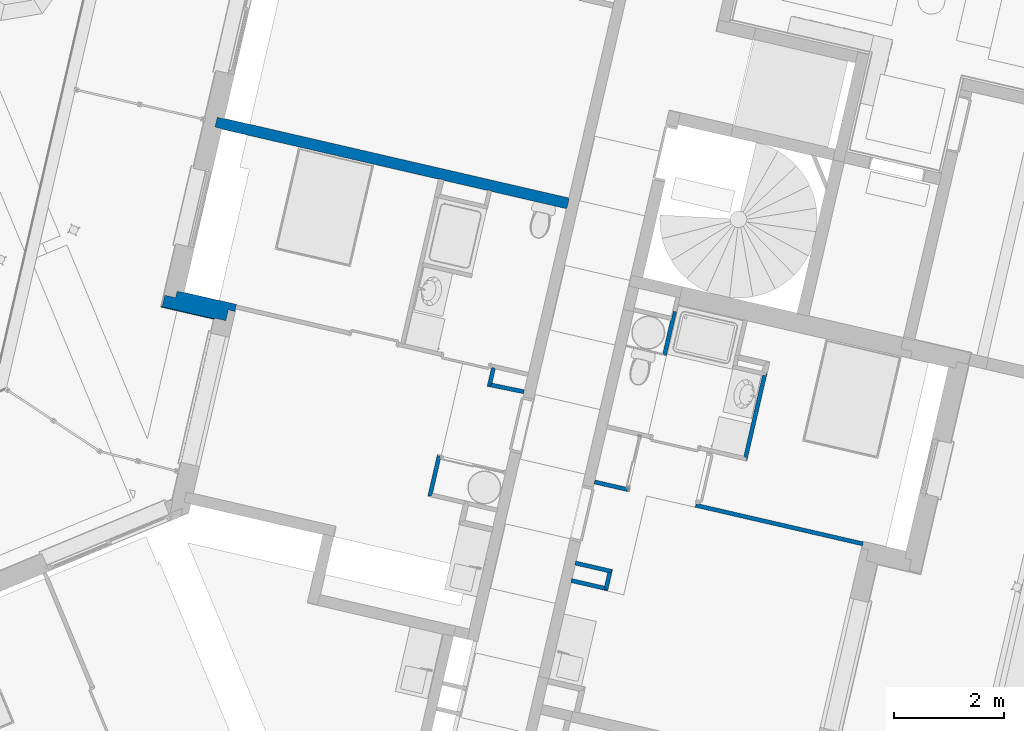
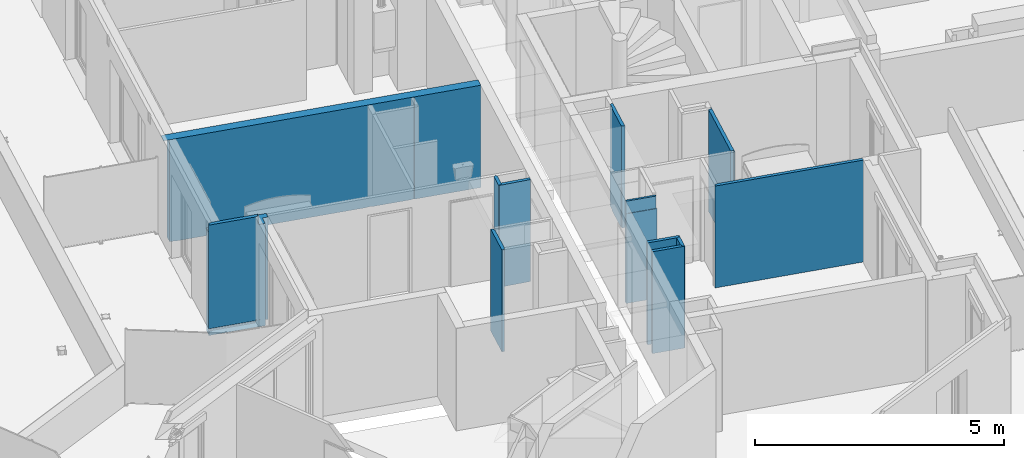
# One storey, part 44 of 119: 12 walls.
"""IFC2X3 building model written with IfcOpenShell, lengths in metres."""

from ifc_helpers import new_model, entity, si_unit, converted_unit, derived_unit, money_unit, direction, frame, origin_with_axes, place, context, subcontext, project, spatial, faceted_brep, material, material_list, type_object, element, save


model = new_model("IFC2X3")

# Units and contexts
model_context = context("Model", 3, precision=1e-05, world=origin_with_axes(), true_north=direction((0.0, 1.0)))
body_context = subcontext(model_context, "Body", "Model", "MODEL_VIEW")
ifc_project = project(units=[si_unit("LENGTHUNIT", "METRE"), si_unit("AREAUNIT", "SQUARE_METRE"), si_unit("VOLUMEUNIT", "CUBIC_METRE"), converted_unit("PLANEANGLEUNIT", "DEGREE", entity("IfcPlaneAngleMeasure", 0.0174532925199), si_unit("PLANEANGLEUNIT", "RADIAN"), dimensions=[0, 0, 0, 0, 0, 0, 0]), si_unit("SOLIDANGLEUNIT", "STERADIAN"), money_unit("EUR"), converted_unit("TIMEUNIT", "Year", entity("IfcTimeMeasure", 31556926.0), si_unit("TIMEUNIT", "SECOND"), dimensions=[0, 0, 1, 0, 0, 0, 0]), si_unit("MASSUNIT", "GRAM", prefix="KILO"), si_unit("THERMODYNAMICTEMPERATUREUNIT", "DEGREE_CELSIUS"), si_unit("LUMINOUSINTENSITYUNIT", "LUMEN"), si_unit("ENERGYUNIT", "JOULE", prefix="MEGA"), derived_unit("THERMALCONDUCTANCEUNIT", [(si_unit("POWERUNIT", "WATT"), 1), (si_unit("LENGTHUNIT", "METRE"), -1), (si_unit("THERMODYNAMICTEMPERATUREUNIT", "KELVIN"), -1)]), derived_unit("SPECIFICHEATCAPACITYUNIT", [(si_unit("ENERGYUNIT", "JOULE"), 1), (si_unit("MASSUNIT", "GRAM", prefix="KILO"), -1), (si_unit("THERMODYNAMICTEMPERATUREUNIT", "KELVIN"), -1)]), derived_unit("MASSDENSITYUNIT", [(si_unit("MASSUNIT", "GRAM", prefix="KILO"), 1), (si_unit("VOLUMEUNIT", "CUBIC_METRE"), -1)])], contexts=[model_context])

# Site, building, storey
site_placement = place(None, origin_with_axes())
site = spatial("IfcSite", under=ifc_project, at=site_placement, Name="Site", CompositionType="ELEMENT")
building_placement = place(site_placement, origin_with_axes())
building = spatial("IfcBuilding", under=site, at=building_placement, Name="Bâtiment", CompositionType="ELEMENT")
storey_placement = place(building_placement, origin_with_axes())
storey = spatial("IfcBuildingStorey", under=building, at=storey_placement, Name="Rez-de-chaussée", CompositionType="ELEMENT", Elevation=0.0)

# Walls
ifc_material_1 = material(Name="Finition int - Plaque de plâtre")
ifc_material_2 = material(Name="Isolation - Laine de roche")
ifc_material_list_1 = material_list([ifc_material_1, ifc_material_2, ifc_material_1])
wall_type_1 = type_object("IfcWallType", Name="3 - Cloison 72mm Placostil 74", PredefinedType="USERDEFINED")
wall_1_placement = place(storey_placement, frame((-10.6895078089, -9.53207011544, 0.0), z_axis=(0.0, 0.0, 1.0), x_axis=(-0.224876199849, -0.974387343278, 0.0)))
element("IfcWall", 1, at=wall_1_placement, inside=storey, type_object=wall_type_1, material=ifc_material_list_1, Name="Cloison Placostil 72/48", ObjectType="PARTITIONING", context=body_context, shape_type="Brep", body=[
    faceted_brep([(-0.174, 0.0, 2.5), (-0.174, -0.013, 2.5), (0.63958884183, -0.0130000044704, 2.5), (0.63958884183, 4.47035120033e-09, 2.5), (-0.174, 0.0, 0.0), (-0.174, -0.013, 0.0), (0.63958884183, -0.013, 0.0), (0.63958884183, 0.0, 0.0), (0.63958884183, 4.47035120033e-09, 1.0)], [[[0, 1, 2, 3]], [[0, 4, 5, 1]], [[5, 6, 2, 1]], [[6, 7, 8, 3, 2]], [[4, 0, 3, 8, 7]], [[5, 4, 7, 6]]]),
    faceted_brep([(-0.174, -0.013, 2.5), (-0.174, -0.061, 2.5), (0.63958884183, -0.0609999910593, 2.5), (0.63958884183, -0.0130000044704, 2.5), (-0.174, -0.013, 0.0), (-0.174, -0.061, 0.0), (0.63958884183, -0.061, 0.0), (0.63958884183, -0.013, 0.0)], [[[0, 1, 2, 3]], [[0, 4, 5, 1]], [[5, 6, 2, 1]], [[6, 7, 3, 2]], [[4, 0, 3, 7]], [[5, 4, 7, 6]]]),
    faceted_brep([(0.63958884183, -0.0609999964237, 1.0), (0.61958884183, -0.0609999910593, 1.0), (0.61958884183, -0.061, 0.0), (0.0, -0.061, 0.0), (0.0, -0.0609999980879, 2.5), (0.63958884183, -0.0609999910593, 2.5), (0.61958884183, -0.074, 1.0), (0.63958884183, -0.074, 1.0), (0.61958884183, -0.074, 0.0), (0.0, -0.074, 0.0), (0.0, -0.074, 2.5), (0.63958884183, -0.074, 2.5)], [[[0, 1, 2, 3, 4, 5]], [[6, 1, 0, 7]], [[8, 2, 1, 6]], [[3, 2, 8, 9]], [[9, 10, 4, 3]], [[5, 4, 10, 11]], [[11, 7, 0, 5]], [[8, 6, 7, 11, 10, 9]]]),
])
wall_2_placement = place(storey_placement, frame((-12.7250174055, -14.1496098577, 0.0), z_axis=(0.0, 0.0, 1.0), x_axis=(0.974387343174, -0.224876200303, 0.0)))
element("IfcWall", 2, at=wall_2_placement, inside=storey, type_object=wall_type_1, material=ifc_material_list_1, Name="Cloison Placostil 72/48", ObjectType="PARTITIONING", context=body_context, shape_type="Brep", body=[
    faceted_brep([(0.791000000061, -0.013, 2.5), (0.791000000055, 0.0, 2.5), (0.18000000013, 0.0, 2.5), (0.180000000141, -0.013, 2.5), (0.791000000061, -0.013, 0.0), (0.791000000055, 0.0, 0.0), (0.18000000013, 0.0, 0.0), (0.180000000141, -0.013, 0.0)], [[[0, 1, 2, 3]], [[1, 0, 4, 5]], [[1, 5, 6, 2]], [[7, 3, 2, 6]], [[4, 0, 3, 7]], [[5, 4, 7, 6]]]),
    faceted_brep([(0.804000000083, -0.061, 2.5), (0.804000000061, -0.013, 2.5), (0.180000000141, -0.013, 2.5), (0.180000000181, -0.061, 2.5), (0.804000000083, -0.061, 0.0), (0.804000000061, -0.013, 0.0), (0.180000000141, -0.013, 0.0), (0.180000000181, -0.061, 0.0)], [[[0, 1, 2, 3]], [[1, 0, 4, 5]], [[1, 5, 6, 2]], [[7, 3, 2, 6]], [[4, 0, 3, 7]], [[5, 4, 7, 6]]]),
    faceted_brep([(0.852000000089, -0.074, 2.5), (0.852000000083, -0.061, 2.5), (0.180000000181, -0.061, 2.5), (0.180000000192, -0.074, 2.5), (0.852000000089, -0.074, 0.0), (0.852000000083, -0.061, 0.0), (0.180000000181, -0.061, 0.0), (0.180000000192, -0.074, 0.0)], [[[0, 1, 2, 3]], [[1, 0, 4, 5]], [[1, 5, 6, 2]], [[7, 3, 2, 6]], [[4, 0, 3, 7]], [[5, 4, 7, 6]]]),
])
wall_3_placement = place(storey_placement, frame((-11.8090853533, -14.0274421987, 0.0), z_axis=(0.0, 0.0, 1.0), x_axis=(-0.224876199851, -0.974387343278, 0.0)))
element("IfcWall", 3, at=wall_3_placement, inside=storey, type_object=wall_type_1, material=ifc_material_list_1, Name="Cloison Placostil 72/48", ObjectType="PARTITIONING", context=body_context, shape_type="Brep", body=[
    faceted_brep([(0.399009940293, -0.013, 2.5), (0.399009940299, 0.0, 2.5), (0.013, 0.0, 2.5), (0.012999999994, -0.013, 2.5), (0.399009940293, -0.013, 0.0), (0.399009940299, 0.0, 0.0), (0.013, 0.0, 0.0), (0.012999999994, -0.013, 0.0)], [[[0, 1, 2, 3]], [[1, 0, 4, 5]], [[1, 5, 6, 2]], [[7, 3, 2, 6]], [[4, 0, 3, 7]], [[5, 4, 7, 6]]]),
    faceted_brep([(0.38600994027, -0.061, 2.5), (0.386009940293, -0.013, 2.5), (0.060999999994, -0.013, 2.5), (0.0609999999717, -0.061, 2.5), (0.38600994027, -0.061, 0.0), (0.386009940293, -0.013, 0.0), (0.060999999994, -0.013, 0.0), (0.0609999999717, -0.061, 0.0)], [[[0, 1, 2, 3]], [[1, 0, 4, 5]], [[1, 5, 6, 2]], [[7, 3, 2, 6]], [[4, 0, 3, 7]], [[5, 4, 7, 6]]]),
    faceted_brep([(0.338009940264, -0.074, 2.5), (0.33800994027, -0.061, 2.5), (0.0739999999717, -0.061, 2.5), (0.0739999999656, -0.074, 2.5), (0.338009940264, -0.074, 0.0), (0.33800994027, -0.061, 0.0), (0.0739999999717, -0.061, 0.0), (0.0739999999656, -0.074, 0.0)], [[[0, 1, 2, 3]], [[1, 0, 4, 5]], [[1, 5, 6, 2]], [[7, 3, 2, 6]], [[4, 0, 3, 7]], [[5, 4, 7, 6]]]),
])
wall_4_placement = place(storey_placement, frame((-12.6519304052, -13.8329242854, 0.0), z_axis=(0.0, 0.0, 1.0), x_axis=(0.974387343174, -0.224876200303, 0.0)))
element("IfcWall", 4, at=wall_4_placement, inside=storey, type_object=wall_type_1, material=ifc_material_list_1, Name="Cloison Placostil 72/48", ObjectType="PARTITIONING", context=body_context, shape_type="Brep", body=[
    faceted_brep([(0.865000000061, -0.013, 2.5), (0.865000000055, 0.0, 2.5), (0.180000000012, 0.0, 2.5), (0.180000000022, -0.013, 2.5), (0.865000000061, -0.013, 0.0), (0.865000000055, 0.0, 0.0), (0.180000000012, 0.0, 0.0), (0.180000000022, -0.013, 0.0)], [[[0, 1, 2, 3]], [[1, 0, 4, 5]], [[1, 5, 6, 2]], [[7, 3, 2, 6]], [[4, 0, 3, 7]], [[5, 4, 7, 6]]]),
    faceted_brep([(0.852000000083, -0.061, 2.5), (0.852000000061, -0.013, 2.5), (0.180000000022, -0.013, 2.5), (0.180000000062, -0.061, 2.5), (0.852000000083, -0.061, 0.0), (0.852000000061, -0.013, 0.0), (0.180000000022, -0.013, 0.0), (0.180000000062, -0.061, 0.0)], [[[0, 1, 2, 3]], [[1, 0, 4, 5]], [[1, 5, 6, 2]], [[7, 3, 2, 6]], [[4, 0, 3, 7]], [[5, 4, 7, 6]]]),
    faceted_brep([(0.804000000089, -0.074, 2.5), (0.804000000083, -0.061, 2.5), (0.180000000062, -0.061, 2.5), (0.180000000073, -0.074, 2.5), (0.804000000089, -0.074, 0.0), (0.804000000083, -0.061, 0.0), (0.180000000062, -0.061, 0.0), (0.180000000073, -0.074, 0.0)], [[[0, 1, 2, 3]], [[1, 0, 4, 5]], [[1, 5, 6, 2]], [[7, 3, 2, 6]], [[4, 0, 3, 7]], [[5, 4, 7, 6]]]),
])
wall_5_placement = place(storey_placement, frame((-13.9871825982, -10.3067745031, 0.0), z_axis=(0.0, 0.0, 1.0), x_axis=(-0.224876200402, -0.974387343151, 0.0)))
element("IfcWall", 5, at=wall_5_placement, inside=storey, type_object=wall_type_1, material=ifc_material_list_1, Name="Cloison Placostil 72/48", ObjectType="PARTITIONING", context=body_context, shape_type="Brep", body=[
    faceted_brep([(0.350338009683, 0.074, 0.0), (0.350627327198, 0.061, 0.0), (0.0739999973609, 0.061, 0.0), (0.0739999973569, 0.074, 0.0), (0.350338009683, 0.074, 2.5), (0.350627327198, 0.061, 2.5), (0.0739999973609, 0.061, 2.5), (0.0739999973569, 0.074, 2.5)], [[[0, 1, 2, 3]], [[1, 0, 4, 5]], [[1, 5, 6, 2]], [[7, 3, 2, 6]], [[4, 0, 3, 7]], [[5, 4, 7, 6]]]),
    faceted_brep([(0.398639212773, 0.061, 0.0), (0.39970746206, 0.013, 0.0), (0.0609999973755, 0.013, 0.0), (0.0609999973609, 0.061, 0.0), (0.398639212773, 0.061, 2.5), (0.39970746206, 0.013, 2.5), (0.0609999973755, 0.013, 2.5), (0.0609999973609, 0.061, 2.5)], [[[0, 1, 2, 3]], [[1, 0, 4, 5]], [[1, 5, 6, 2]], [[7, 3, 2, 6]], [[4, 0, 3, 7]], [[5, 4, 7, 6]]]),
    faceted_brep([(0.41271068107, 0.013, 0.0), (0.412999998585, 0.0, 0.0), (0.0739999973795, 0.0, 0.0), (0.0739999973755, 0.013, 0.0), (0.41271068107, 0.013, 2.5), (0.412999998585, 0.0, 2.5), (0.0739999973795, 0.0, 2.5), (0.0739999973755, 0.013, 2.5)], [[[0, 1, 2, 3]], [[1, 0, 4, 5]], [[1, 5, 6, 2]], [[7, 3, 2, 6]], [[4, 0, 3, 7]], [[5, 4, 7, 6]]]),
])
wall_6_placement = place(storey_placement, frame((-15.1386228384, -12.627824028, 0.0), z_axis=(0.0, 0.0, 1.0), x_axis=(0.224876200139, 0.974387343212, 0.0)))
element("IfcWall", 6, at=wall_6_placement, inside=storey, type_object=wall_type_1, material=ifc_material_list_1, Name="Cloison Placostil 72/48", ObjectType="PARTITIONING", context=body_context, shape_type="Brep", body=[
    faceted_brep([(0.699999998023, -0.013, 2.5), (0.699999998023, 0.0, 2.5), (-0.074, 0.0, 2.5), (-0.0740000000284, -0.013, 2.5), (0.699999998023, -0.013, 0.0), (0.699999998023, 0.0, 0.0), (-0.074, 0.0, 0.0), (-0.0740000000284, -0.013, 0.0)], [[[0, 1, 2, 3]], [[1, 0, 4, 5]], [[1, 5, 6, 2]], [[7, 3, 2, 6]], [[4, 0, 3, 7]], [[5, 4, 7, 6]]]),
    faceted_brep([(0.686999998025, -0.061, 2.5), (0.686999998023, -0.013, 2.5), (-0.0610000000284, -0.013, 2.5), (-0.0610000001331, -0.061, 2.5), (0.686999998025, -0.061, 0.0), (0.686999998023, -0.013, 0.0), (-0.0610000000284, -0.013, 0.0), (-0.0610000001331, -0.061, 0.0)], [[[0, 1, 2, 3]], [[1, 0, 4, 5]], [[1, 5, 6, 2]], [[7, 3, 2, 6]], [[4, 0, 3, 7]], [[5, 4, 7, 6]]]),
    faceted_brep([(0.638999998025, -0.074, 2.5), (0.638999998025, -0.061, 2.5), (-0.0130000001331, -0.061, 2.5), (-0.0130000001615, -0.074, 2.5), (0.638999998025, -0.074, 0.0), (0.638999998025, -0.061, 0.0), (-0.0130000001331, -0.061, 0.0), (-0.0130000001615, -0.074, 0.0)], [[[0, 1, 2, 3]], [[1, 0, 4, 5]], [[1, 5, 6, 2]], [[7, 3, 2, 6]], [[4, 0, 3, 7]], [[5, 4, 7, 6]]]),
])
wall_7_placement = place(storey_placement, frame((-9.0970696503, -10.5163824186, 0.0), z_axis=(0.0, 0.0, 1.0), x_axis=(-0.224876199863, -0.974387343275, 0.0)))
element("IfcWall", 7, at=wall_7_placement, inside=storey, type_object=wall_type_1, material=ifc_material_list_1, Name="Cloison Placostil 72/48", ObjectType="PARTITIONING", context=body_context, shape_type="Brep", body=[
    faceted_brep([(1.55916609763, 0.074, 0.0), (1.55916609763, 0.061, 0.0), (-0.060999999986, 0.061, 0.0), (-0.060999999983, 0.074, 0.0), (1.55916609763, 0.074, 2.5), (1.55916609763, 0.061, 2.5), (-0.060999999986, 0.061, 2.5), (-0.060999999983, 0.074, 2.5)], [[[0, 1, 2, 3]], [[1, 0, 4, 5]], [[1, 5, 6, 2]], [[7, 3, 2, 6]], [[4, 0, 3, 7]], [[5, 4, 7, 6]]]),
    faceted_brep([(1.51116609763, 0.061, 0.0), (1.51116609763, 0.013, 0.0), (-0.012999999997, 0.013, 0.0), (-0.012999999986, 0.061, 0.0), (1.51116609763, 0.061, 2.5), (1.51116609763, 0.013, 2.5), (-0.012999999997, 0.013, 2.5), (-0.012999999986, 0.061, 2.5)], [[[0, 1, 2, 3]], [[1, 0, 4, 5]], [[1, 5, 6, 2]], [[7, 3, 2, 6]], [[4, 0, 3, 7]], [[5, 4, 7, 6]]]),
    faceted_brep([(1.49816609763, 0.013, 0.0), (1.49816609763, 0.0, 0.0), (0.0, 0.0, 0.0), (0.0, 0.013, 0.0), (1.49816609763, 0.013, 2.5), (1.49816609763, 0.0, 2.5), (0.0, 0.0, 2.5), (0.0, 0.013, 2.5)], [[[0, 1, 2, 3]], [[1, 0, 4, 5]], [[1, 5, 6, 2]], [[7, 3, 2, 6]], [[4, 0, 3, 7]], [[5, 4, 7, 6]]]),
])
wall_8_placement = place(storey_placement, frame((-12.1440994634, -12.4774049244, 0.0), z_axis=(0.0, 0.0, 1.0), x_axis=(0.974387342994, -0.224876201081, 0.0)))
element("IfcWall", 8, at=wall_8_placement, inside=storey, type_object=wall_type_1, material=ifc_material_list_1, Name="Cloison Placostil 72/48", ObjectType="PARTITIONING", context=body_context, shape_type="Brep", body=[
    faceted_brep([(0.0, 0.074, 2.2), (0.588999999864, 0.074, 2.2), (0.588999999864, 0.074, 0.0), (0.0, 0.074, 0.0), (0.588999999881, 0.061, 2.2), (0.0, 0.061, 2.2), (0.588999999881, 0.061, 0.0), (0.0, 0.061, 0.0)], [[[0, 1, 2, 3]], [[4, 1, 0, 5]], [[1, 4, 6, 2]], [[2, 6, 7, 3]], [[5, 0, 3, 7]], [[4, 5, 7, 6]]]),
    faceted_brep([(0.636999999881, 0.061, 0.0), (0.636999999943, 0.013, 0.0), (0.0, 0.013, 0.0), (0.0, 0.061, 0.0), (0.636999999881, 0.061, 2.5), (0.636999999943, 0.013, 2.5), (0.0, 0.013, 2.5), (0.0, 0.061, 2.5)], [[[0, 1, 2, 3]], [[1, 0, 4, 5]], [[1, 5, 6, 2]], [[7, 3, 2, 6]], [[4, 0, 3, 7]], [[5, 4, 7, 6]]]),
    faceted_brep([(0.0, 0.013, 2.2), (0.649999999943, 0.013, 2.2), (0.649999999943, 0.013, 0.0), (0.0, 0.013, 0.0), (0.64999999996, 0.0, 2.2), (0.0, 0.0, 2.2), (0.64999999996, 0.0, 0.0), (0.0, 0.0, 0.0)], [[[0, 1, 2, 3]], [[4, 1, 0, 5]], [[1, 4, 6, 2]], [[2, 6, 7, 3]], [[5, 0, 3, 7]], [[4, 5, 7, 6]]]),
])
wall_9_placement = place(storey_placement, frame((-7.28482978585, -13.5988625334, 0.0), z_axis=(0.0, 0.0, 1.0), x_axis=(-0.974387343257, 0.224876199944, 0.0)))
element("IfcWall", 9, at=wall_9_placement, inside=storey, type_object=wall_type_1, material=ifc_material_list_1, Name="Cloison Placostil 72/48", ObjectType="PARTITIONING", context=body_context, shape_type="Brep", body=[
    faceted_brep([(3.11699999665, -0.013, 2.5), (3.11699999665, 0.0, 2.5), (0.0, 0.0, 2.5), (0.0, -0.013, 2.5), (3.11699999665, -0.013, 0.0), (3.11699999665, 0.0, 0.0), (0.0, 0.0, 0.0), (0.0, -0.013, 0.0)], [[[0, 1, 2, 3]], [[1, 0, 4, 5]], [[1, 5, 6, 2]], [[7, 3, 2, 6]], [[4, 0, 3, 7]], [[5, 4, 7, 6]]]),
    faceted_brep([(3.10399999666, -0.061, 2.5), (3.10399999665, -0.013, 2.5), (0.0, -0.013, 2.5), (0.0, -0.061, 2.5), (3.10399999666, -0.061, 0.0), (3.10399999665, -0.013, 0.0), (0.0, -0.013, 0.0), (0.0, -0.061, 0.0)], [[[0, 1, 2, 3]], [[1, 0, 4, 5]], [[1, 5, 6, 2]], [[7, 3, 2, 6]], [[4, 0, 3, 7]], [[5, 4, 7, 6]]]),
    faceted_brep([(3.05599999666, -0.074, 2.5), (3.05599999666, -0.061, 2.5), (0.0, -0.061, 2.5), (0.0, -0.074, 2.5), (3.05599999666, -0.074, 0.0), (3.05599999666, -0.061, 0.0), (0.0, -0.061, 0.0), (0.0, -0.074, 0.0)], [[[0, 1, 2, 3]], [[1, 0, 4, 5]], [[1, 5, 6, 2]], [[7, 3, 2, 6]], [[4, 0, 3, 7]], [[5, 4, 7, 6]]]),
])
wall_10_placement = place(storey_placement, frame((-14.0800564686, -10.7091964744, 0.0), z_axis=(0.0, 0.0, 1.0), x_axis=(0.979149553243, -0.203140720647, 0.0)))
element("IfcWall", 10, at=wall_10_placement, inside=storey, type_object=wall_type_1, material=ifc_material_list_1, Name="Cloison Placostil 72/48", ObjectType="PARTITIONING", context=body_context, shape_type="Brep", body=[
    faceted_brep([(0.0756652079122, 0.074, 0.0), (0.674166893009, 0.074, 0.0), (0.674166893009, 0.061, 0.0), (0.0753758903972, 0.061, 0.0), (0.0756652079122, 0.074, 2.5), (0.674166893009, 0.074, 2.5), (0.674166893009, 0.061, 2.5), (0.0753758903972, 0.061, 2.5)], [[[0, 1, 2, 3]], [[4, 5, 1, 0]], [[2, 1, 5, 6]], [[3, 2, 6, 7]], [[4, 0, 3, 7]], [[7, 6, 5, 4]]]),
    faceted_brep([(0.0623726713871, 0.061, 0.0), (0.674166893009, 0.061, 0.0), (0.674166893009, 0.013, 0.0), (0.0613044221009, 0.013, 0.0), (0.0623726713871, 0.061, 2.5), (0.674166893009, 0.061, 2.5), (0.674166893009, 0.013, 2.5), (0.0613044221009, 0.013, 2.5)], [[[0, 1, 2, 3]], [[4, 5, 1, 0]], [[2, 1, 5, 6]], [[3, 2, 6, 7]], [[4, 0, 3, 7]], [[7, 6, 5, 4]]]),
    faceted_brep([(0.0132925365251, 0.013, 0.0), (0.674166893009, 0.013, 0.0), (0.674166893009, 0.0, 0.0), (0.0130032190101, 0.0, 0.0), (0.0132925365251, 0.013, 2.5), (0.674166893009, 0.013, 2.5), (0.674166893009, 0.0, 2.5), (0.0130032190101, 0.0, 2.5)], [[[0, 1, 2, 3]], [[4, 5, 1, 0]], [[2, 1, 5, 6]], [[3, 2, 6, 7]], [[4, 0, 3, 7]], [[7, 6, 5, 4]]]),
])
ifc_material_3 = material(Name="Finition int - Enduit plâtre")
ifc_material_4 = material(Name="Béton")
ifc_material_list_2 = material_list([ifc_material_3, ifc_material_4, ifc_material_3])
wall_type_2 = type_object("IfcWallType", Name="2 - Murs Béton 18 + Enduit 2 Faces 200", PredefinedType="USERDEFINED")
wall_11_placement = place(storey_placement, frame((-19.216788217, -5.96817027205, 0.0), z_axis=(0.0, 0.0, 1.0), x_axis=(0.97438734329, -0.224876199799, 0.0)))
element("IfcWall", 11, at=wall_11_placement, inside=storey, type_object=wall_type_2, material=ifc_material_list_2, Name="M_Ext-008", ObjectType="SOLIDWALL", context=body_context, shape_type="Brep", body=[
    faceted_brep([(0.0829999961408, 0.19, 2.51), (6.74531035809, 0.19, 2.51), (6.74531035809, 0.19, 0.0), (0.344999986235, 0.19, 0.0), (0.344999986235, 0.19, 0.133633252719), (0.344999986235, 0.19, 0.160000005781), (0.344999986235, 0.19, 0.169414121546), (0.344999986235, 0.19, 0.176532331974), (0.344999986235, 0.19, 0.207793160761), (0.344999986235, 0.19, 2.50955001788), (0.335000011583, 0.19, 2.50955001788), (0.214999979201, 0.19, 2.50955001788), (0.0830000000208, 0.19, 2.50955), (6.74531035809, 0.18, 2.51), (0.0829999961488, 0.18, 2.51), (6.74531035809, 0.18, 0.0), (0.344999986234, 0.18, 0.0), (0.344999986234, 0.18, 0.133633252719), (0.344999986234, 0.18, 0.160000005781), (0.344999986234, 0.18, 0.169414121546), (0.344999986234, 0.18, 0.176532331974), (0.344999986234, 0.18, 0.207793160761), (0.344999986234, 0.18, 2.50955001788), (0.335000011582, 0.18, 2.50955001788), (0.2149999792, 0.18, 2.50955001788), (0.0830000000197, 0.18, 2.50955)], [[[0, 1, 2, 3, 4, 5, 6, 7, 8, 9, 10, 11, 12]], [[13, 1, 0, 14]], [[1, 13, 15, 2]], [[3, 2, 15, 16]], [[16, 17, 4, 3]], [[18, 5, 4, 17]], [[19, 6, 5, 18]], [[7, 6, 19, 20]], [[8, 7, 20, 21]], [[8, 21, 22, 9]], [[9, 22, 23, 10]], [[23, 24, 11, 10]], [[24, 25, 12, 11]], [[14, 0, 12, 25]], [[13, 14, 25, 24, 23, 22, 21, 20, 19, 18, 17, 16, 15]]]),
    faceted_brep([(0.0829999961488, 0.18, 2.51), (6.75531035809, 0.18, 2.51), (6.75531035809, 0.18, 0.0), (0.214999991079, 0.18, 0.0), (0.214999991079, 0.18, 0.133633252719), (0.214999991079, 0.18, 0.160000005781), (0.214999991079, 0.18, 0.169414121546), (0.214999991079, 0.18, 0.176532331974), (0.214999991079, 0.18, 0.207793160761), (0.214999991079, 0.18, 2.50955001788), (0.0830000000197, 0.18, 2.50955), (6.75531035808, 0.0, 2.51), (0.0829999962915, 0.0, 2.51), (6.75531035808, 0.0, 0.0), (0.214999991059, 0.0, 0.0), (0.214999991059, 0.0, 0.133633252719), (0.214999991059, 0.0, 0.160000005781), (0.214999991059, 0.0, 0.169414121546), (0.214999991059, 0.0, 0.176532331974), (0.214999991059, 0.0, 0.207793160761), (0.214999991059, 0.0, 2.50955001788), (0.083, 0.0, 2.50955)], [[[0, 1, 2, 3, 4, 5, 6, 7, 8, 9, 10]], [[11, 1, 0, 12]], [[1, 11, 13, 2]], [[13, 14, 3, 2]], [[14, 15, 4, 3]], [[4, 15, 16, 5]], [[17, 6, 5, 16]], [[17, 18, 7, 6]], [[8, 7, 18, 19]], [[8, 19, 20, 9]], [[20, 21, 10, 9]], [[12, 0, 10, 21]], [[11, 12, 21, 20, 19, 18, 17, 16, 15, 14, 13]]]),
    faceted_brep([(0.0829999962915, 0.0, 2.51), (6.74531035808, 0.0, 2.51), (6.74531035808, 0.0, 0.0), (5.35531035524, 0.0, 0.0), (5.35531035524, 0.0, 2.5), (5.34231035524, 0.0, 2.5), (5.29431035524, 0.0, 2.5), (5.28131035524, 0.0, 2.5), (5.28131035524, 0.0, 0.0), (4.46931035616, 0.0, 0.0), (4.46931035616, 0.0, 2.5), (4.45631035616, 0.0, 2.5), (4.44331035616, 0.0, 2.5), (4.39531035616, 0.0, 2.5), (4.38231035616, 0.0, 2.5), (4.36931035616, 0.0, 2.5), (4.36931035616, 0.0, 0.0), (0.344999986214, 0.0, 0.0), (0.344999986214, 0.0, 0.133633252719), (0.344999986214, 0.0, 0.160000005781), (0.344999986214, 0.0, 0.169414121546), (0.344999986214, 0.0, 0.176532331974), (0.344999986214, 0.0, 0.207793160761), (0.344999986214, 0.0, 2.50955001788), (0.335000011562, 0.0, 2.50955001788), (0.21499997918, 0.0, 2.50955001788), (0.083, 0.0, 2.50955), (6.74531035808, -0.01, 2.51), (0.0829999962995, -0.01, 2.51), (6.74531035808, -0.01, 0.0), (5.35531035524, -0.01, 0.0), (5.35531035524, -0.01, 2.5), (5.34231035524, -0.01, 2.5), (5.29431035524, -0.01, 2.5), (5.28131035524, -0.01, 2.5), (5.28131035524, -0.01, 0.0), (4.46931035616, -0.01, 0.0), (4.46931035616, -0.01, 2.5), (4.45631035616, -0.01, 2.5), (4.44331035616, -0.01, 2.5), (4.39531035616, -0.01, 2.5), (4.38231035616, -0.01, 2.5), (4.36931035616, -0.01, 2.5), (4.36931035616, -0.01, 0.0), (0.344999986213, -0.01, 0.0), (0.344999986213, -0.01, 0.133633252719), (0.344999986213, -0.01, 0.160000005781), (0.344999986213, -0.01, 0.169414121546), (0.344999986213, -0.01, 0.176532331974), (0.344999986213, -0.01, 0.207793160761), (0.344999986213, -0.01, 2.50955001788), (0.335000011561, -0.01, 2.50955001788), (0.214999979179, -0.01, 2.50955001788), (0.0829999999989, -0.01, 2.50955)], [[[0, 1, 2, 3, 4, 5, 6, 7, 8, 9, 10, 11, 12, 13, 14, 15, 16, 17, 18, 19, 20, 21, 22, 23, 24, 25, 26]], [[27, 1, 0, 28]], [[1, 27, 29, 2]], [[30, 3, 2, 29]], [[4, 3, 30, 31]], [[5, 4, 31, 32]], [[6, 5, 32, 33]], [[6, 33, 34, 7]], [[7, 34, 35, 8]], [[35, 36, 9, 8]], [[36, 37, 10, 9]], [[37, 38, 11, 10]], [[39, 12, 11, 38]], [[39, 40, 13, 12]], [[41, 14, 13, 40]], [[15, 14, 41, 42]], [[16, 15, 42, 43]], [[17, 16, 43, 44]], [[44, 45, 18, 17]], [[46, 19, 18, 45]], [[47, 20, 19, 46]], [[21, 20, 47, 48]], [[22, 21, 48, 49]], [[22, 49, 50, 23]], [[23, 50, 51, 24]], [[51, 52, 25, 24]], [[52, 53, 26, 25]], [[28, 0, 26, 53]], [[27, 28, 53, 52, 51, 50, 49, 48, 47, 46, 45, 44, 43, 42, 41, 40, 39, 38, 37, 36, 35, 34, 33, 32, 31, 30, 29]]]),
])
ifc_material_5 = material(Name="Métal - Aluminium")
ifc_material_6 = material(Name="Finition ext - Crépis")
ifc_material_7 = material(Name="Etanchéité - Bitume")
ifc_material_8 = material(Name="Béton cellulaire")
ifc_material_9 = material(Name="Mortier")
ifc_material_10 = material(Name="Isolation - Polystyrène expansé")
ifc_material_11 = material(Name="Bloc ELITHERM")
ifc_material_12 = material(Name="Isolation - Polystyrène extrudé")
ifc_material_list_3 = material_list([ifc_material_5, ifc_material_6, ifc_material_7, ifc_material_8, ifc_material_9, ifc_material_10, ifc_material_11, ifc_material_12, ifc_material_1])
wall_type_3 = type_object("IfcWallType", Name="Mur ALKERN + planelle 21 TERRASSE RDC 356 x 2720", PredefinedType="USERDEFINED")
wall_12_placement = place(storey_placement, frame((-19.0234065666, -9.48828387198, 0.0), z_axis=(0.0, 0.0, 1.0), x_axis=(-0.974387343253, 0.22487619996, 0.0)))
element("IfcWall", 12, at=wall_12_placement, inside=storey, type_object=wall_type_3, material=ifc_material_list_3, Name="Mue bloc ALKERN isolé", ObjectType="SOLIDWALL", context=body_context, shape_type="Brep", body=[
    faceted_brep([(0.965018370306, -0.0160453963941, 0.176532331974), (0.965018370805, -0.0160453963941, 0.207793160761), (-0.016045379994, -0.0160453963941, 0.207793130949), (-0.016045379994, -0.0160453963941, 0.176532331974), (-0.016045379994, -0.0160453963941, 0.169727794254), (0.968547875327, -0.0160453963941, 0.169727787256), (0.965018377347, -0.0160453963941, 0.170774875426), (0.965018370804, -0.015, 0.207793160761), (0.965018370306, -0.0150000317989, 0.176532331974), (-0.0160453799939, -0.015, 0.207793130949), (-0.0160453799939, -0.0150000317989, 0.176532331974), (-0.0160453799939, -0.015, 0.170774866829), (-0.0160453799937, -0.0114705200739, 0.169727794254), (-0.0150000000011, -0.015, 0.169414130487), (0.969605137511, -0.015, 0.169414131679), (0.991457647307, 0.00660988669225, 0.162931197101), (0.991457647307, 0.0114392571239, 0.162931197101), (0.965018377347, -0.015, 0.170774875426), (0.00660986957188, 0.0114392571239, 0.162931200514), (-0.0150000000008, -0.0104132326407, 0.169414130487), (0.0102051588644, 0.0102051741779, 0.161852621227), (0.991457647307, 0.0102051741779, 0.161852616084), (0.991457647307, 0.0102051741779, 0.133633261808), (0.991457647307, 0.0114392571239, 0.133633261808), (0.0102051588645, 0.0114392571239, 0.160000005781), (0.0102051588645, 0.0114392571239, 0.161852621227), (0.0102051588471, 0.0114392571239, 0.133633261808), (0.0102051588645, 0.0102051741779, 0.160000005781), (0.010205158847, 0.0102051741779, 0.133633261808)], [[[0, 1, 2, 3, 4, 5, 6]], [[7, 1, 0, 8]], [[1, 7, 9, 2]], [[10, 3, 2, 9]], [[4, 3, 10, 11, 12]], [[4, 13, 14, 5]], [[6, 5, 14, 15, 16, 17]], [[8, 0, 6, 17]], [[7, 8, 10, 9]], [[11, 10, 8, 17]], [[17, 16, 18, 19, 12, 11]], [[13, 4, 12, 19]], [[15, 14, 13, 20, 21]], [[22, 23, 16, 15, 21]], [[24, 25, 18, 16, 23, 26]], [[19, 18, 25, 20, 13]], [[22, 21, 20, 27, 28]], [[26, 23, 22, 28]], [[20, 25, 24, 27]], [[24, 26, 28, 27]]]),
    faceted_brep([(0.980018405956, -3.18861737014e-09, 2.72), (-0.015, -3.18862092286e-09, 2.72), (-0.0150000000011, -0.0149999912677, 2.72), (0.980018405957, -0.0149999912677, 2.72), (-0.015, -3.18861737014e-09, 0.207793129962), (0.980018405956, -3.18861737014e-09, 0.176532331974), (-0.0150000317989, -3.18862092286e-09, 0.176532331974), (-0.0150000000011, -0.0150000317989, 0.207793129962), (-0.0150000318, -0.0150000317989, 0.176532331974), (0.980018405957, -0.0150000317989, 0.176532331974)], [[[0, 1, 2, 3]], [[4, 1, 0, 5, 6]], [[7, 2, 1, 4]], [[3, 2, 7, 8, 9]], [[9, 5, 0, 3]], [[9, 8, 6, 5]], [[8, 7, 4, 6]]]),
    faceted_brep([(-0.0149999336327, -0.005, 0.01), (-0.0149999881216, -0.0149999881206, 0.01), (-0.0150000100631, -0.0150000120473, 0.133633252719), (-0.0150000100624, -0.005, 0.133633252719), (0.965018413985, -0.0149999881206, 0.01), (0.975018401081, -0.005, 0.01), (0.975018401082, -0.0150000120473, 0.01), (0.975018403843, -0.0150000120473, 0.133633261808), (0.975018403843, -0.0150000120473, 0.160000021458), (-0.0150000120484, -0.0150000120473, 0.160000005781), (-0.0150000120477, -0.005, 0.160000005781), (0.975018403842, -0.005, 0.160000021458), (0.975018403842, -0.005, 0.133633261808)], [[[0, 1, 2, 3]], [[4, 1, 0, 5, 6]], [[4, 6, 7, 8, 9, 2, 1]], [[3, 2, 9, 10]], [[5, 0, 3, 10, 11, 12]], [[6, 5, 12, 7]], [[12, 11, 8, 7]], [[9, 8, 11, 10]]]),
    faceted_brep([(0.965018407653, -0.0630000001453, 2.51999999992), (0.96501841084, -0.0630000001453, 2.72), (-0.0630000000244, -0.0630000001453, 2.72), (-0.0630000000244, -0.0630000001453, 2.51999999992), (0.965018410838, -0.015, 2.72), (0.96501840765, -0.015, 2.51999999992), (-0.0630000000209, -0.015, 2.72), (-0.0630000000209, -0.015, 2.51999999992)], [[[0, 1, 2, 3]], [[4, 1, 0, 5]], [[1, 4, 6, 2]], [[3, 2, 6, 7]], [[5, 0, 3, 7]], [[4, 5, 7, 6]]]),
    faceted_brep([(0.965018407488, -0.083, 2.50955), (0.965018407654, -0.083, 2.51999999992), (-0.0830000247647, -0.083, 2.51999998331), (-0.0829999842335, -0.083, 2.50955002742), (0.96501840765, -0.015, 2.51999999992), (0.965018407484, -0.015, 2.50955), (-0.0830000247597, -0.015, 2.51999998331), (-0.0829999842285, -0.015, 2.50955002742)], [[[0, 1, 2, 3]], [[4, 1, 0, 5]], [[1, 4, 6, 2]], [[7, 3, 2, 6]], [[5, 0, 3, 7]], [[4, 5, 7, 6]]]),
    faceted_brep([(-0.0830000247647, -0.0830000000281, 2.51999998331), (0.917018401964, -0.0830000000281, 2.51999999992), (0.917018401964, -0.0830000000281, 2.72), (-0.0830000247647, -0.0830000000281, 2.72), (-0.0830000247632, -0.0630000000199, 2.51999998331), (0.917018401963, -0.0630000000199, 2.51999999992), (0.917018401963, -0.0630000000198, 2.72), (-0.0830000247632, -0.0630000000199, 2.72)], [[[0, 1, 2, 3]], [[4, 5, 1, 0]], [[5, 6, 2, 1]], [[3, 2, 6, 7]], [[7, 4, 0, 3]], [[7, 6, 5, 4]]]),
    faceted_brep([(0.965018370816, -0.214999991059, 0.207793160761), (0.965018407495, -0.214999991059, 2.50955), (-0.214999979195, -0.214999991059, 2.50955001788), (-0.214999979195, -0.214999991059, 0.207793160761), (-0.214999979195, -0.214999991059, 0.176532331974), (-0.214999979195, -0.214999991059, 0.169414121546), (-0.214999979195, -0.214999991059, 0.160000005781), (-0.214999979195, -0.214999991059, 0.133633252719), (-0.214999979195, -0.214999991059, 0.0), (0.965018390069, -0.214999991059, 0.0), (0.965018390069, -0.214999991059, 0.133633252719), (0.965018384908, -0.214999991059, 0.160000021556), (0.96501843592, -0.214999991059, 0.169414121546), (0.963973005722, -0.214999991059, 0.169727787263), (0.963973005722, -0.214999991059, 0.176532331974), (0.963973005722, -0.214999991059, 0.207793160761), (0.965018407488, -0.0829999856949, 2.50955), (0.965018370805, -0.0160453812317, 0.207793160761), (0.965018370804, -0.015, 0.207793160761), (0.965018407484, -0.015, 2.50955), (-0.214999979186, -0.0829999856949, 2.50955001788), (-0.214999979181, -0.0160453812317, 0.207793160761), (-0.214999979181, -0.015, 2.50955001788), (-0.214999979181, -0.015, 0.207793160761), (-0.214999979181, -0.0160453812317, 0.176532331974), (-0.214999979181, -0.0160453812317, 0.169727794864), (-0.214999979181, -0.015, 0.169414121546), (-0.214999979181, -0.0150000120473, 0.160000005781), (-0.214999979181, -0.0150000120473, 0.133633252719), (-0.214999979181, -0.015, 0.0), (0.965018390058, -0.015, 0.0), (0.965018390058, -0.0150000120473, 0.133633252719), (0.965018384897, -0.0150000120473, 0.160000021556), (0.965018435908, -0.015, 0.169414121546), (0.963973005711, -0.0160453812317, 0.169727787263), (0.963973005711, -0.0160453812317, 0.176532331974), (0.963973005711, -0.0160453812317, 0.207793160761)], [[[0, 1, 2, 3, 4, 5, 6, 7, 8, 9, 10, 11, 12, 13, 14, 15]], [[16, 1, 0, 17, 18, 19]], [[1, 16, 20, 2]], [[21, 3, 2, 20, 22, 23]], [[4, 3, 21, 24]], [[4, 24, 25, 26, 5]], [[5, 26, 27, 6]], [[6, 27, 28, 7]], [[8, 7, 28, 29]], [[9, 8, 29, 30]], [[9, 30, 31, 10]], [[10, 31, 32, 11]], [[12, 11, 32, 33]], [[12, 33, 34, 13]], [[14, 13, 34, 35]], [[14, 35, 36, 15]], [[17, 0, 15, 36]], [[18, 17, 36, 21, 23]], [[19, 18, 23, 22]], [[16, 19, 22, 20]], [[25, 24, 21, 36, 35, 34]], [[33, 26, 25, 34]], [[27, 26, 33, 32]], [[28, 27, 32, 31, 30, 29]]]),
    faceted_brep([(0.765018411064, -0.335000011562, 0.176532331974), (0.765018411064, -0.335000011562, 0.207793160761), (0.765018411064, -0.335000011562, 2.50955001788), (-0.335000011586, -0.335000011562, 2.50955001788), (-0.335000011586, -0.335000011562, 0.207793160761), (-0.335000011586, -0.335000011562, 0.176532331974), (-0.335000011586, -0.335000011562, 0.169414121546), (-0.335000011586, -0.335000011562, 0.160000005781), (-0.335000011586, -0.335000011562, 0.133633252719), (-0.335000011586, -0.335000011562, 0.0), (0.765018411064, -0.335000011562, 0.0), (0.765018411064, -0.335000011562, 0.133633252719), (0.765018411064, -0.335000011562, 0.160000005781), (0.765018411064, -0.335000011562, 0.169414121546), (0.765018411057, -0.21499997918, 0.176532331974), (0.765018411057, -0.21499997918, 0.207793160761), (0.765018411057, -0.21499997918, 2.50955001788), (-0.335000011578, -0.21499997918, 2.50955001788), (-0.335000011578, -0.21499997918, 0.207793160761), (-0.335000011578, -0.21499997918, 0.176532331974), (-0.335000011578, -0.21499997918, 0.169414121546), (-0.335000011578, -0.21499997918, 0.160000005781), (-0.335000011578, -0.21499997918, 0.133633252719), (-0.335000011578, -0.21499997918, 0.0), (0.765018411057, -0.21499997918, 0.0), (0.765018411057, -0.21499997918, 0.133633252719), (0.765018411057, -0.21499997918, 0.160000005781), (0.765018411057, -0.21499997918, 0.169414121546)], [[[0, 1, 2, 3, 4, 5, 6, 7, 8, 9, 10, 11, 12, 13]], [[14, 15, 1, 0]], [[15, 16, 2, 1]], [[3, 2, 16, 17]], [[3, 17, 18, 4]], [[18, 19, 5, 4]], [[19, 20, 6, 5]], [[21, 7, 6, 20]], [[22, 8, 7, 21]], [[22, 23, 9, 8]], [[24, 10, 9, 23]], [[11, 10, 24, 25]], [[12, 11, 25, 26]], [[27, 13, 12, 26]], [[14, 0, 13, 27]], [[17, 16, 15, 14, 27, 26, 25, 24, 23, 22, 21, 20, 19, 18]]]),
    faceted_brep([(0.645018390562, -0.344999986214, 0.176532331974), (0.645018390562, -0.344999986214, 0.207793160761), (0.645018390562, -0.344999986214, 2.50955001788), (-0.34500000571, -0.344999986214, 2.50955002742), (-0.34500000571, -0.344999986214, 0.0), (0.645018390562, -0.344999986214, 0.0), (0.645018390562, -0.344999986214, 0.133633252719), (0.645018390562, -0.344999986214, 0.160000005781), (0.645018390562, -0.344999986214, 0.169414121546), (0.645018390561, -0.335000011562, 0.176532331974), (0.645018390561, -0.335000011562, 0.207793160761), (0.645018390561, -0.335000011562, 2.50955001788), (-0.34500000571, -0.335000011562, 2.50955002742), (-0.34500000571, -0.335000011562, 0.0), (0.645018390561, -0.335000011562, 0.0), (0.645018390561, -0.335000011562, 0.133633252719), (0.645018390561, -0.335000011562, 0.160000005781), (0.645018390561, -0.335000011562, 0.169414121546)], [[[0, 1, 2, 3, 4, 5, 6, 7, 8]], [[9, 10, 1, 0]], [[10, 11, 2, 1]], [[3, 2, 11, 12]], [[13, 4, 3, 12]], [[14, 5, 4, 13]], [[6, 5, 14, 15]], [[7, 6, 15, 16]], [[17, 8, 7, 16]], [[9, 0, 8, 17]], [[12, 11, 10, 9, 17, 16, 15, 14, 13]]]),
])

save(model, "model.ifc")
